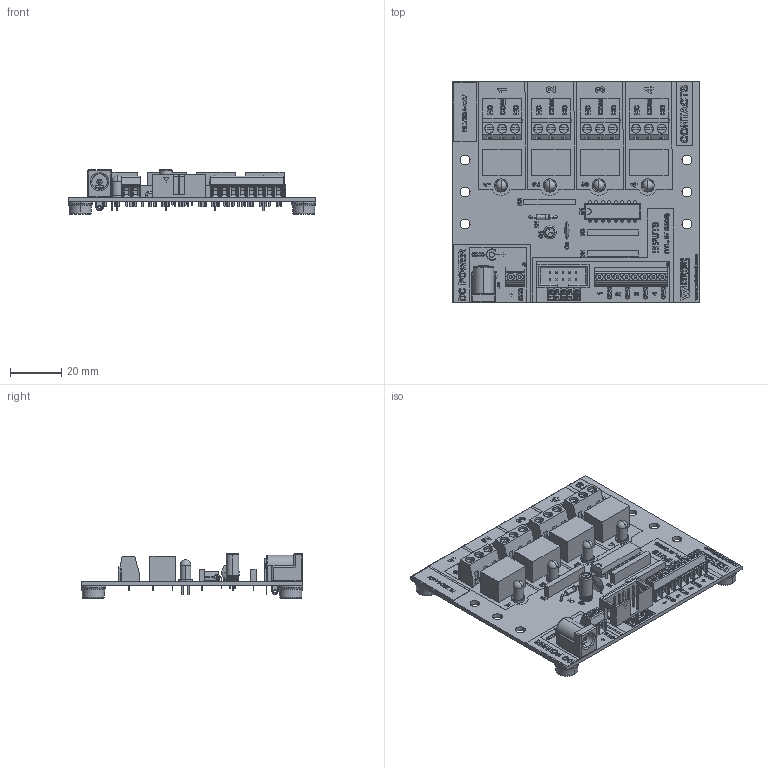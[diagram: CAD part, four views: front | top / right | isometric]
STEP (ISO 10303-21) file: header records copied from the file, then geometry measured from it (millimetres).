
FILE_DESCRIPTION (( 'STEP AP214' ), '1' );
FILE_NAME ('rly304-xxv-ft_rev_c.step', '2022-07-25T18:07:05', ( '' ), ( '' ), 'SwSTEP 2.0', 'SolidWorks 2018', '' );
FILE_SCHEMA (( 'AUTOMOTIVE_DESIGN' ));
Length unit declared in the file: inch
Products named in the file (3): round rubber foot; rly304_Board; rly304-xxv-ft_rev_c
Assembly tree (5 placements, depth 2):
  rly304-xxv-ft_rev_c
    rly304_Board
    round rubber foot  x4
Bounding box: 96.52 x 86.36 x 17.41 mm (x, y, z)
Volume: 29299.8 mm3; surface area: 39114.2 mm2
Topology: 83 solids, 83 shells, 4770 faces, 12538 edges, 8213 vertices
Faces by surface type: plane 3194, bspline 866, cylinder 613, torus 68, sphere 21, cone 8
Entity records: 216210 total; most frequent: CARTESIAN_POINT 79672, ORIENTED_EDGE 24930, DIRECTION 18434, EDGE_CURVE 12465, LINE 8442, VECTOR 8442, VERTEX_POINT 8181, EDGE_LOOP 5392
